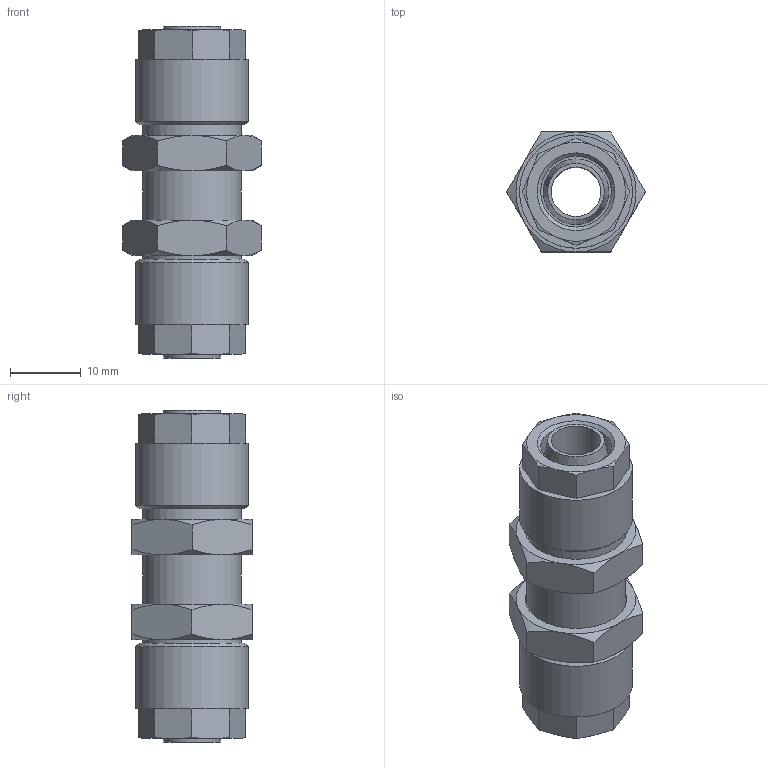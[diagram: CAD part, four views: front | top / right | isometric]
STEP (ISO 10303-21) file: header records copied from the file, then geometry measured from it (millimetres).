
FILE_DESCRIPTION(/* description */ (''),/* implementation_level */ '2;1');
FILE_NAME(/* name */ '10509_304_108_17.07.17',/* time_stamp */ '2017-07-17T13:43:59+02:00',/* author */ (''),/* organization */ (''),/* preprocessor_version */ 'ST-DEVELOPER v16.5',/* originating_system */ 'HiCAD 2016 2102.2 Build 618',/* authorisation */ '');
FILE_SCHEMA (('AUTOMOTIVE_DESIGN { 1 0 10303 214 1 1 1 1 }'));
Length unit declared in the file: millimetre
Products named in the file (6): Root; R10509; Kontermutter; 17007
Assembly tree (5 placements, depth 2):
  Root
    R10509
    Kontermutter
    Kontermutter
    17007
    17007
Bounding box: 19.63 x 17 x 47 mm (x, y, z)
Volume: 7142.3 mm3; surface area: 7086.2 mm2
Topology: 5 solids, 5 shells, 114 faces, 248 edges, 150 vertices
Faces by surface type: cone 56, plane 44, cylinder 12, torus 2
Full cylindrical faces by diameter (mm): 7 x1, 8.5 x2, 10 x2, 12.773 x4, 14 x1, 16 x2
Entity records: 5096 total; most frequent: DIRECTION 616, CARTESIAN_POINT 468, PRESENTATION_STYLE_ASSIGNMENT 417, COLOUR_RGB 413, DRAUGHTING_PRE_DEFINED_CURVE_FONT 412, CURVE_STYLE 412, OVER_RIDING_STYLED_ITEM 412, ORIENTED_EDGE 412
